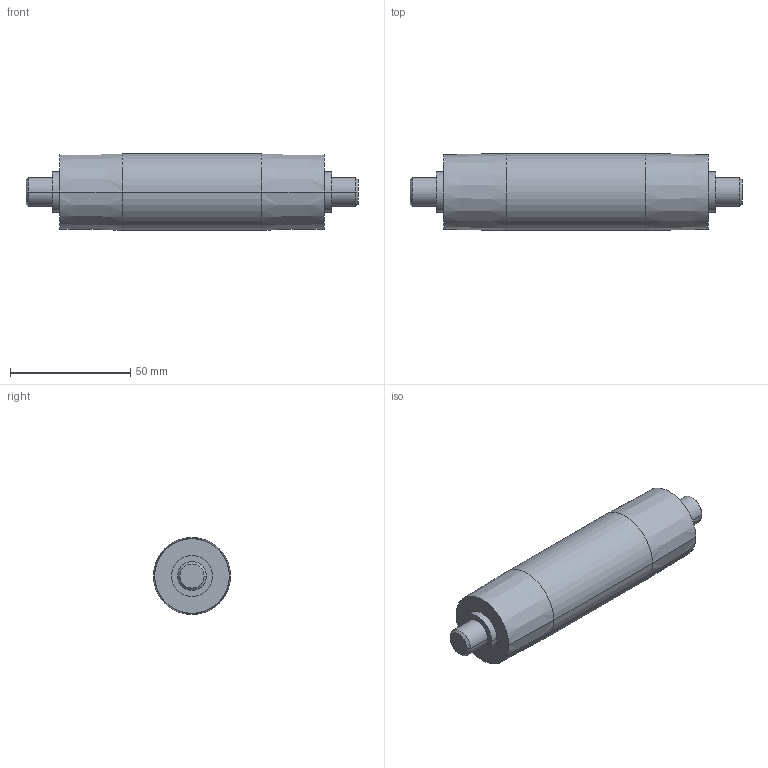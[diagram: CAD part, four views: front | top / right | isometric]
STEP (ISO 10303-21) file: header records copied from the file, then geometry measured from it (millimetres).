
FILE_DESCRIPTION (( 'STEP AP214' ), '1' );
FILE_NAME ('084.030.181.STEP', '2021-02-05T15:47:48', ( '' ), ( '' ), 'SwSTEP 2.0', 'SolidWorks 2018', '' );
FILE_SCHEMA (( 'AUTOMOTIVE_DESIGN' ));
Length unit declared in the file: millimetre
Products named in the file (1): 084.030.181
Bounding box: 138 x 32 x 32 mm (x, y, z)
Volume: 90988.4 mm3; surface area: 13590.3 mm2
Topology: 1 solids, 1 shells, 24 faces, 46 edges, 28 vertices
Faces by surface type: cylinder 10, cone 8, plane 6
Entity records: 648 total; most frequent: DIRECTION 124, CARTESIAN_POINT 99, ORIENTED_EDGE 92, AXIS2_PLACEMENT_3D 53, EDGE_CURVE 46, VERTEX_POINT 28, EDGE_LOOP 28, CIRCLE 28
